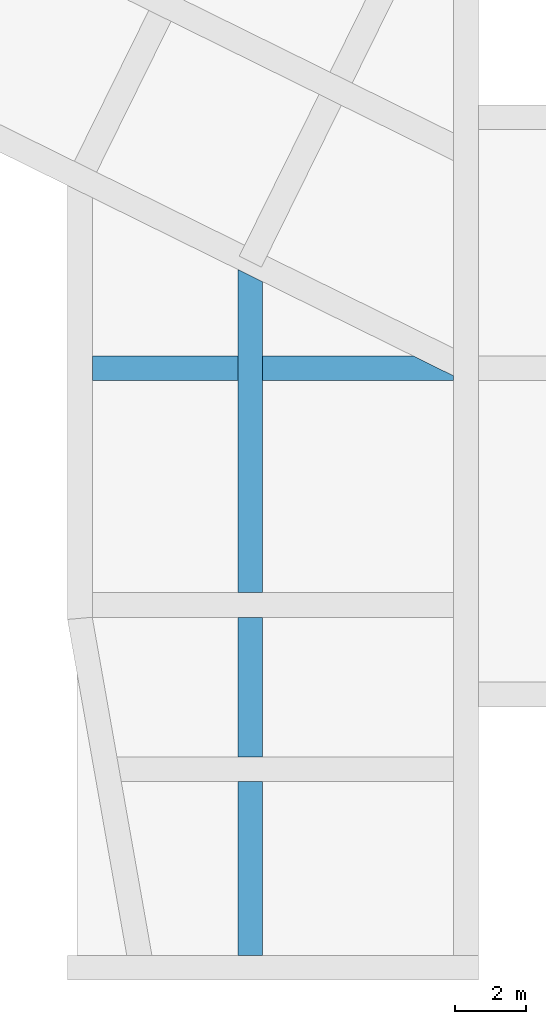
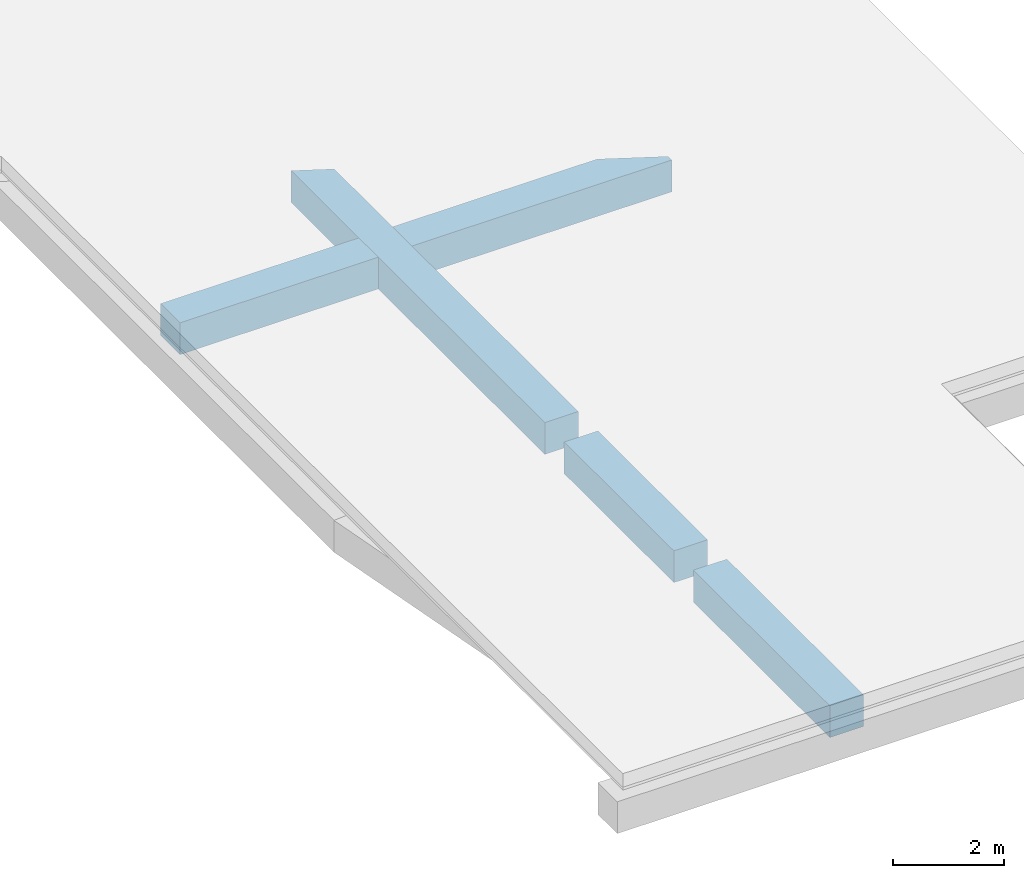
# One storey, part 2 of 3: 2 footings.
"""IFC4 building model written with IfcOpenShell, lengths in metres."""

from ifc_helpers import new_model, entity, si_unit, converted_unit, derived_unit, frame, origin, place, context, subcontext, project, spatial, faceted_brep, material, element, save


model = new_model("IFC4")

# Units and contexts
model_context = context("Model", 3, precision=1e-05, world=origin())
body_context = subcontext(model_context, "Body", "Model", "MODEL_VIEW")
ifc_project = project(units=[si_unit("LENGTHUNIT", "METRE"), si_unit("AREAUNIT", "SQUARE_METRE"), si_unit("VOLUMEUNIT", "CUBIC_METRE"), si_unit("MASSUNIT", "GRAM", prefix="KILO"), converted_unit("PLANEANGLEUNIT", "DEGREE", entity("IfcPlaneAngleMeasure", 0.0174532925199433), si_unit("PLANEANGLEUNIT", "RADIAN"), dimensions=[0, 0, 0, 0, 0, 0, 0]), derived_unit("THERMALTRANSMITTANCEUNIT", [(si_unit("POWERUNIT", "WATT"), 1), (si_unit("THERMODYNAMICTEMPERATUREUNIT", "KELVIN"), -1), (si_unit("LENGTHUNIT", "METRE"), -2)]), derived_unit("VOLUMETRICFLOWRATEUNIT", [(si_unit("LENGTHUNIT", "METRE"), 3), (converted_unit("TIMEUNIT", "hour", entity("IfcTimeMeasure", 3600.0), si_unit("TIMEUNIT", "SECOND"), dimensions=[0, 0, 1, 0, 0, 0, 0]), -1), (si_unit("LENGTHUNIT", "METRE"), -1)])], contexts=[model_context])

# Site, building, storey
site_placement = place(None, origin())
site = spatial("IfcSite", under=ifc_project, at=site_placement, Name="Psychiatrie Neubau Wunstorf", CompositionType="ELEMENT")
building_placement = place(site_placement, origin())
building = spatial("IfcBuilding", under=site, at=building_placement, Name="Neubau H1 Sozialzentrum", CompositionType="ELEMENT")
storey_placement = place(building_placement, frame((0.0, 0.0, 0.2)))
storey = spatial("IfcBuildingStorey", under=building, at=storey_placement, Name="H1 Gründung", CompositionType="ELEMENT", Elevation=0.2)

# Footings
ifc_material_1 = material(Name="STB")
footing_1_placement = place(storey_placement, frame((-15.6285259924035, 20.761337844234, -0.76)))
element("IfcFooting", 1, at=footing_1_placement, inside=storey, material=ifc_material_1, Name="Streifenfundament", PredefinedType="STRIP_FOOTING", context=body_context, shape_type="Brep", body=[
    faceted_brep([(4.82399916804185, 0.0, 0.0), (10.2280010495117, 0.0, 0.0), (10.2280010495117, 0.132097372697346, 0.0), (9.07619476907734, 0.7, 0.0), (4.82399916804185, 0.7, 0.0), (4.82399916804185, 0.0, 0.700000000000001), (4.82399916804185, 0.7, 0.700000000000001), (9.07619476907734, 0.7, 0.700000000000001), (10.2280010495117, 0.132097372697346, 0.700000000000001), (10.2280010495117, 0.0, 0.700000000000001), (4.12399916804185, 0.7, 0.0), (0.0, 0.7, 0.0), (0.0, 0.0, 0.0), (4.12399916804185, 0.0, 0.0), (4.12399916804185, 0.7, 0.700000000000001), (4.12399916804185, 0.0, 0.700000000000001), (0.0, 0.0, 0.700000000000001), (0.0, 0.7, 0.700000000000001)], [[[0, 1, 2, 3, 4]], [[5, 6, 7, 8, 9]], [[10, 11, 12, 13]], [[14, 15, 16, 17]], [[0, 5, 9, 1]], [[1, 9, 8, 2]], [[2, 8, 7, 3]], [[3, 7, 6, 4]], [[4, 6, 5, 0]], [[10, 14, 17, 11]], [[11, 17, 16, 12]], [[12, 16, 15, 13]], [[13, 15, 14, 10]]], orient=[[False], [False], [False], [False], [False], [False], [False], [False], [False], [False], [False], [False], [False]]),
])
ifc_material_2 = material(Name="STB")
footing_2_placement = place(storey_placement, frame((-11.5045268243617, 4.49632204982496, -0.76)))
element("IfcFooting", 2, at=footing_2_placement, inside=storey, material=ifc_material_2, Name="Streifenfundament", PredefinedType="STRIP_FOOTING", context=body_context, shape_type="Brep", body=[
    faceted_brep([(0.7, 10.2659242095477, 0.0), (0.7, 19.0615775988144, 0.0), (0.0, 19.4067153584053, 0.0), (0.0, 10.2659242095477, 0.0), (0.7, 10.2659242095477, 0.700000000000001), (0.0, 10.2659242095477, 0.700000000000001), (0.0, 19.4067153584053, 0.700000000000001), (0.7, 19.0615775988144, 0.700000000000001), (0.0, 4.91607057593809, 0.0), (0.0, 0.0, 0.0), (0.699999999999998, 0.0, 0.0), (0.7, 4.91607057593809, 0.0), (0.0, 5.61607057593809, 0.0), (0.7, 5.61607057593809, 0.0), (0.7, 9.56592420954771, 0.0), (0.0, 9.56592420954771, 0.0), (0.0, 4.91607057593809, 0.700000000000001), (0.7, 4.91607057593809, 0.700000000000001), (0.699999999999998, 0.0, 0.700000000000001), (0.0, 0.0, 0.700000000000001), (0.0, 5.61607057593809, 0.700000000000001), (0.0, 9.56592420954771, 0.700000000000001), (0.7, 9.56592420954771, 0.700000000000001), (0.7, 5.61607057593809, 0.700000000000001)], [[[0, 1, 2, 3]], [[4, 5, 6, 7]], [[8, 9, 10, 11]], [[12, 13, 14, 15]], [[16, 17, 18, 19]], [[20, 21, 22, 23]], [[0, 4, 7, 1]], [[1, 7, 6, 2]], [[2, 6, 5, 3]], [[3, 5, 4, 0]], [[12, 20, 23, 13]], [[13, 23, 22, 14]], [[14, 22, 21, 15]], [[15, 21, 20, 12]], [[8, 16, 19, 9]], [[9, 19, 18, 10]], [[10, 18, 17, 11]], [[11, 17, 16, 8]]], orient=[[False], [False], [False], [False], [False], [False], [False], [False], [False], [False], [False], [False], [False], [False], [False], [False], [False], [False]]),
])

save(model, "model.ifc")
